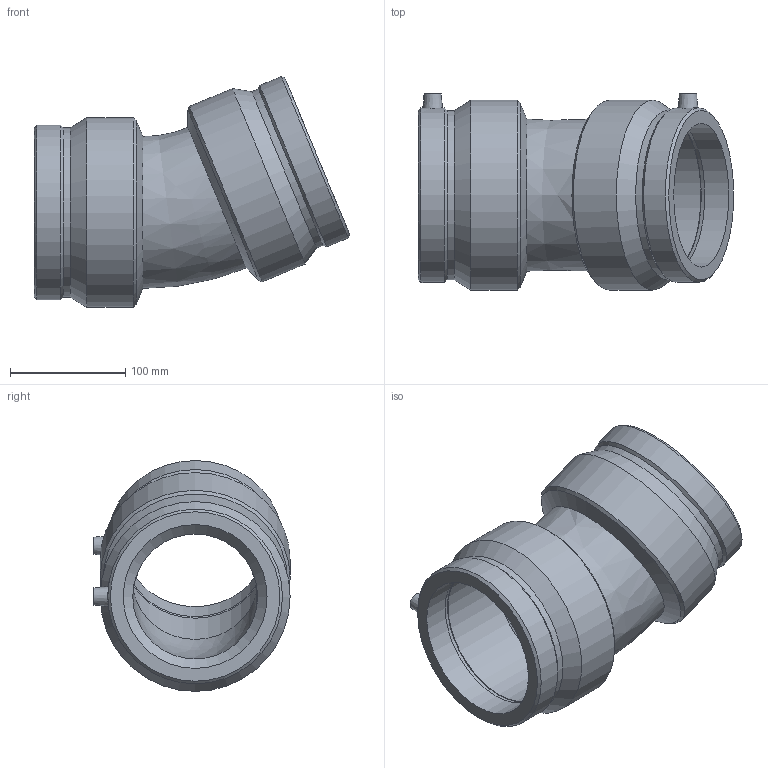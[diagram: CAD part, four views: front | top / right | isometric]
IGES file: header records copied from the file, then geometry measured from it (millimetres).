
Global section: file name: 490804125.ipt; native system: Autodesk Inventor 2015; preprocessor: unknown; author: KIM; date: 20171106.093706; units: millimetre
Bounding box: 274 x 170.5 x 200.65 mm (x, y, z)
Volume: 1695567.6 mm3; surface area: 245919 mm2
Topology: 1 solids, 1 shells, 42 faces, 98 edges, 64 vertices
Faces by surface type: revolution 12, cone 12, plane 10, cylinder 8
Full cylindrical faces by diameter (mm): 4 x2, 147.246 x2, 151.8 x2, 165 x2
